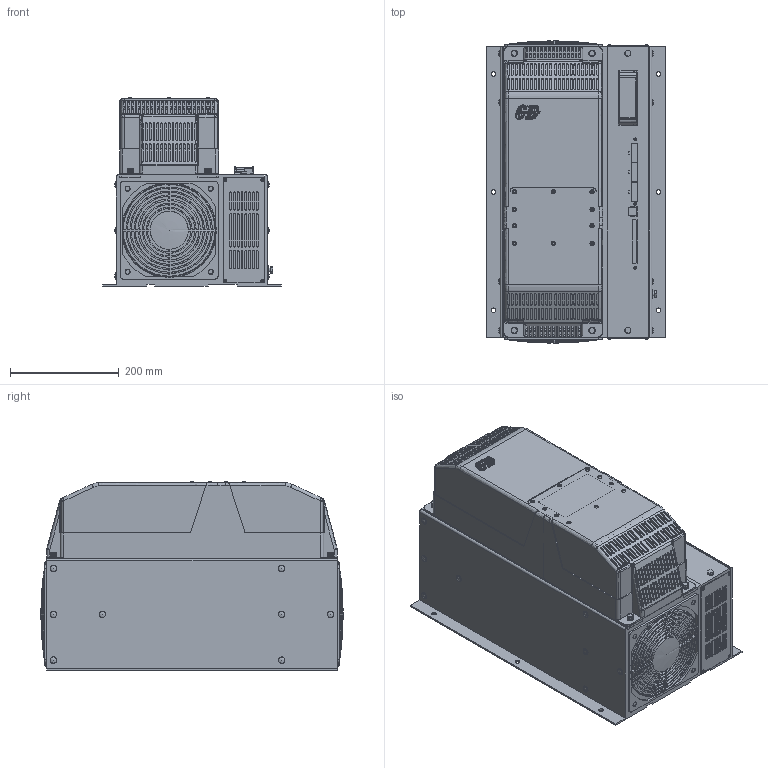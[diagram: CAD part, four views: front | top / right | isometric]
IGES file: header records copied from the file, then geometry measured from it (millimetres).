
Global section: file name: SR18; native system: AutoCAD 2015 - Italiano (Italian); preprocessor: Autodesk Translation Framework DWG producer (atf_dwg_producer); organization: unknown; date: 20191106.110208; units: millimetre
Bounding box: 329 x 556 x 346.6 mm (x, y, z)
Volume: 42252937.4 mm3; surface area: 1308694.9 mm2
Topology: 2 solids, 18 shells, 3460 faces, 9581 edges, 6378 vertices
Faces by surface type: bspline 3460
